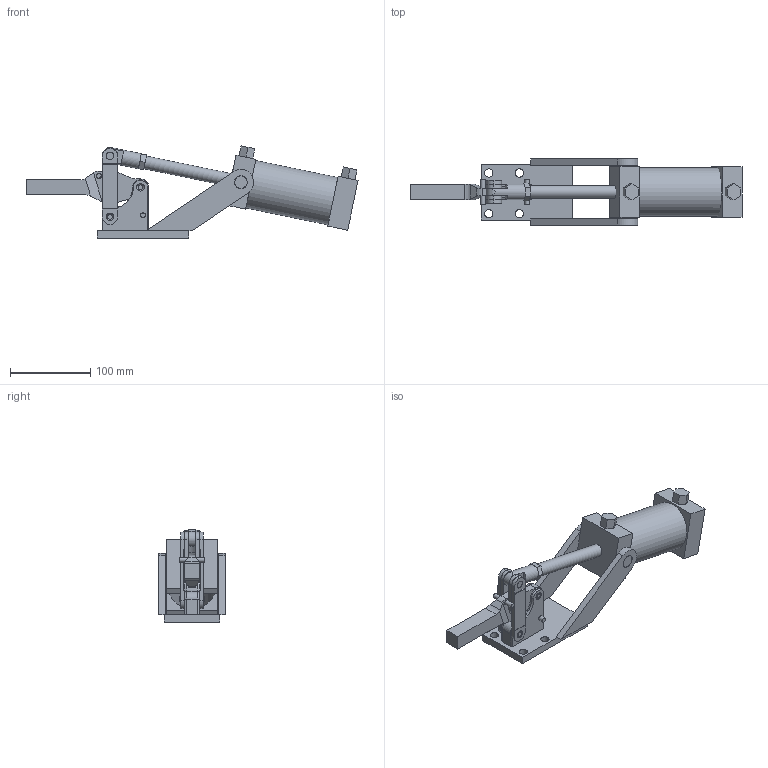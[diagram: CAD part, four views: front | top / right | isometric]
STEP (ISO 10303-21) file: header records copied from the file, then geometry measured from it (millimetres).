
FILE_DESCRIPTION(/* description */ (''),/* implementation_level */ '2;1');
FILE_NAME(/* name */ 'a1910',/* time_stamp */ '2002-06-20T12:25:49-05:00',/* author */ (''),/* organization */ (''),/* preprocessor_version */ 'ST-DEVELOPER v8',/* originating_system */ 'UNIGRAPHICS SOLUTIONS - UNIGRAPHICS 18.0',/* authorisation */ '');
FILE_SCHEMA (('CONFIG_CONTROL_DESIGN'));
Length unit declared in the file: inch
Products named in the file (1): gues215F001t
Bounding box: 414.41 x 82.55 x 115.19 mm (x, y, z)
Volume: 804027.6 mm3; surface area: 139396.7 mm2
Topology: 17 solids, 17 shells, 213 faces, 500 edges, 328 vertices
Faces by surface type: plane 137, cylinder 64, cone 12
Full cylindrical faces by diameter (mm): 5.842 x2, 5.867 x3, 6.35 x2, 6.375 x6, 9.08 x2, 9.474 x3, 9.588 x5, 10.319 x4, 12.7 x1, 15.443 x1, 15.875 x1, 15.951 x2, 19.05 x1, 60.325 x1
Entity records: 6026 total; most frequent: DIRECTION 1026, CARTESIAN_POINT 1024, ORIENTED_EDGE 914, EDGE_CURVE 457, AXIS2_PLACEMENT_3D 361, VERTEX_POINT 325, EDGE_LOOP 304, LINE 304
